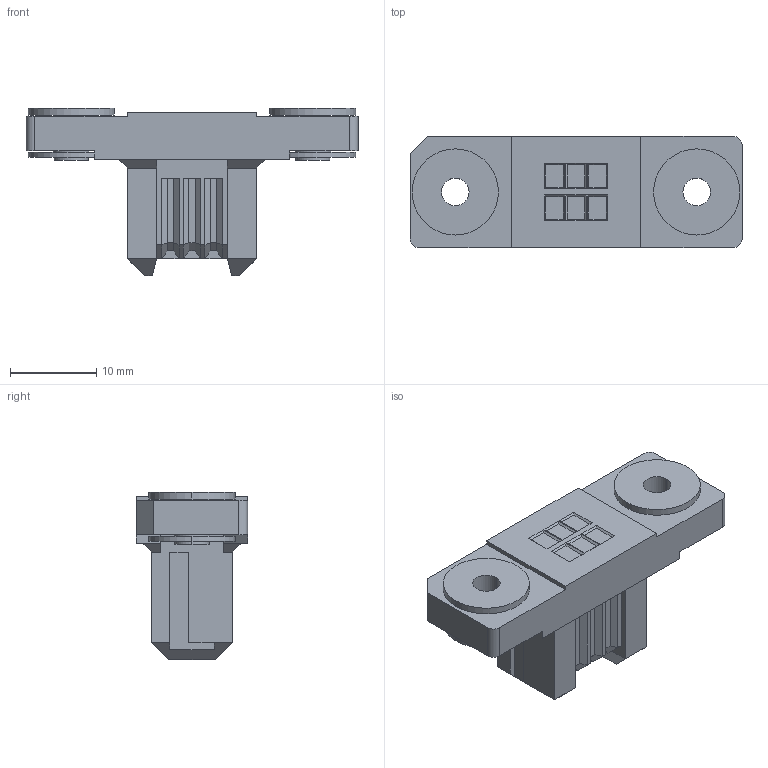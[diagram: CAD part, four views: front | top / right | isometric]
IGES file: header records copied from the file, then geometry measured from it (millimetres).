
Start section: Elysium IGES Interface
Bounding box: 38.5 x 12.9 x 19.45 mm (x, y, z)
Volume: 3878.6 mm3; surface area: 2913.4 mm2
Topology: 1 solids, 1 shells, 206 faces, 494 edges, 306 vertices
Faces by surface type: bspline 206
